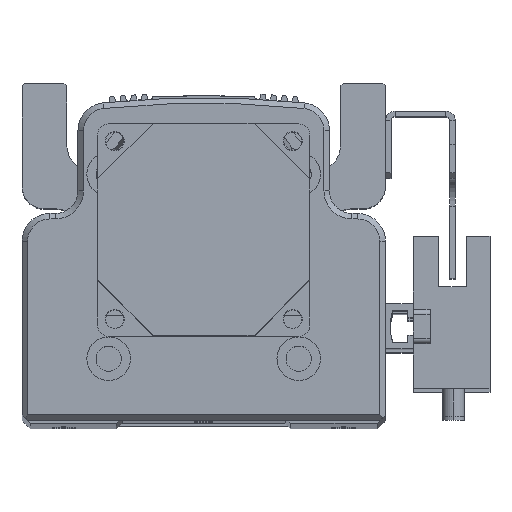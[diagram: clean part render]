
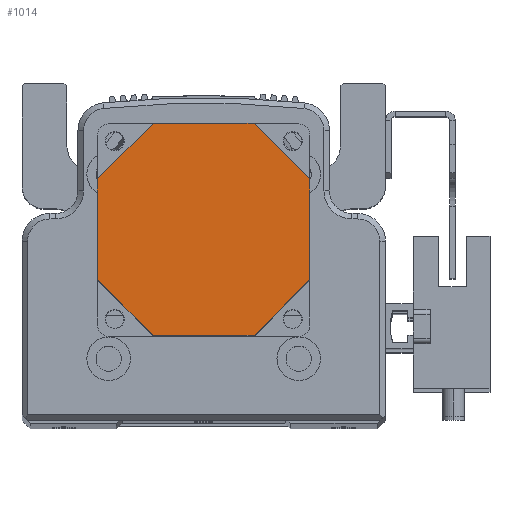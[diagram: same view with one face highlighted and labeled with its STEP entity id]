
A CAD part, top view. The second image highlights one B-rep face of the part: STEP entity #1014.
In plain terms, the highlighted planar face has unit normal (0, 0, 1) as drawn and (0, 0, -1) by its records, which use the part's own axes.
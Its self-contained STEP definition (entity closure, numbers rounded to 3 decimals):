
#106 = CARTESIAN_POINT ( 'NONE',  ( 19., -9., -84. ) ) ;
#121 = DIRECTION ( 'NONE',  ( -0.707, -0.707, 0. ) ) ;
#1014 = ADVANCED_FACE ( 'NONE', ( #17080 ), #10057, .F. ) ;
#5157 = EDGE_CURVE ( 'NONE', #10888, #10923, #18288, .T. ) ;
#5165 = EDGE_CURVE ( 'NONE', #10889, #10925, #18268, .T. ) ;
#5167 = EDGE_CURVE ( 'NONE', #10923, #10898, #18293, .T. ) ;
#5169 = EDGE_CURVE ( 'NONE', #10921, #10916, #18270, .T. ) ;
#5179 = EDGE_CURVE ( 'NONE', #10916, #10888, #18247, .T. ) ;
#5188 = EDGE_CURVE ( 'NONE', #10901, #10921, #18310, .T. ) ;
#5192 = EDGE_CURVE ( 'NONE', #10925, #10901, #18318, .T. ) ;
#5264 = EDGE_CURVE ( 'NONE', #10898, #10889, #18466, .T. ) ;
#9983 = DIRECTION ( 'NONE',  ( 0., 0., 1. ) ) ;
#9989 = DIRECTION ( 'NONE',  ( 1., 0., 0. ) ) ;
#10029 = CARTESIAN_POINT ( 'NONE',  ( 0., 0., -84. ) ) ;
#10057 = PLANE ( 'NONE',  #33113 ) ;
#10888 = VERTEX_POINT ( 'NONE', #30023 ) ;
#10889 = VERTEX_POINT ( 'NONE', #30074 ) ;
#10898 = VERTEX_POINT ( 'NONE', #30058 ) ;
#10901 = VERTEX_POINT ( 'NONE', #30087 ) ;
#10916 = VERTEX_POINT ( 'NONE', #30097 ) ;
#10921 = VERTEX_POINT ( 'NONE', #30112 ) ;
#10923 = VERTEX_POINT ( 'NONE', #30106 ) ;
#10925 = VERTEX_POINT ( 'NONE', #30066 ) ;
#15458 = ORIENTED_EDGE ( 'NONE', *, *, #5192, .T. ) ;
#15476 = ORIENTED_EDGE ( 'NONE', *, *, #5167, .T. ) ;
#15490 = ORIENTED_EDGE ( 'NONE', *, *, #5264, .T. ) ;
#15493 = ORIENTED_EDGE ( 'NONE', *, *, #5157, .T. ) ;
#15500 = ORIENTED_EDGE ( 'NONE', *, *, #5169, .T. ) ;
#15513 = ORIENTED_EDGE ( 'NONE', *, *, #5165, .T. ) ;
#15518 = ORIENTED_EDGE ( 'NONE', *, *, #5179, .T. ) ;
#15519 = ORIENTED_EDGE ( 'NONE', *, *, #5188, .T. ) ;
#16098 = CARTESIAN_POINT ( 'NONE',  ( -9., -19., -84. ) ) ;
#16340 = DIRECTION ( 'NONE',  ( -0.707, 0.707, 0. ) ) ;
#16490 = DIRECTION ( 'NONE',  ( 0.707, -0.707, 0. ) ) ;
#16502 = CARTESIAN_POINT ( 'NONE',  ( 19., 9., -84. ) ) ;
#16506 = CARTESIAN_POINT ( 'NONE',  ( -9., 19., -84. ) ) ;
#16510 = DIRECTION ( 'NONE',  ( 0., -1., 0. ) ) ;
#16515 = DIRECTION ( 'NONE',  ( -1., 0., 0. ) ) ;
#16516 = CARTESIAN_POINT ( 'NONE',  ( 19., 9., -84. ) ) ;
#16517 = CARTESIAN_POINT ( 'NONE',  ( 9., -19., -84. ) ) ;
#16519 = DIRECTION ( 'NONE',  ( 0.707, 0.707, 0. ) ) ;
#16522 = DIRECTION ( 'NONE',  ( 0., 1., 0. ) ) ;
#16550 = CARTESIAN_POINT ( 'NONE',  ( 9., 19., -84. ) ) ;
#16554 = DIRECTION ( 'NONE',  ( 1., 0., 0. ) ) ;
#16561 = CARTESIAN_POINT ( 'NONE',  ( -19., 9., -84. ) ) ;
#17080 = FACE_OUTER_BOUND ( 'NONE', #32516, .T. ) ;
#18230 = VECTOR ( 'NONE', #16510, 1000. ) ;
#18247 = LINE ( 'NONE', #16550, #18250 ) ;
#18250 = VECTOR ( 'NONE', #16554, 1000. ) ;
#18268 = LINE ( 'NONE', #16517, #18269 ) ;
#18269 = VECTOR ( 'NONE', #16515, 1000. ) ;
#18270 = LINE ( 'NONE', #16506, #18292 ) ;
#18278 = VECTOR ( 'NONE', #16490, 1000. ) ;
#18288 = LINE ( 'NONE', #16502, #18278 ) ;
#18292 = VECTOR ( 'NONE', #16519, 1000. ) ;
#18293 = LINE ( 'NONE', #16516, #18230 ) ;
#18297 = VECTOR ( 'NONE', #16522, 1000. ) ;
#18310 = LINE ( 'NONE', #16561, #18297 ) ;
#18318 = LINE ( 'NONE', #16098, #18323 ) ;
#18323 = VECTOR ( 'NONE', #16340, 1000. ) ;
#18465 = VECTOR ( 'NONE', #121, 1000. ) ;
#18466 = LINE ( 'NONE', #106, #18465 ) ;
#30023 = CARTESIAN_POINT ( 'NONE',  ( 9., 19., -84. ) ) ;
#30058 = CARTESIAN_POINT ( 'NONE',  ( 19., -9., -84. ) ) ;
#30066 = CARTESIAN_POINT ( 'NONE',  ( -9., -19., -84. ) ) ;
#30074 = CARTESIAN_POINT ( 'NONE',  ( 9., -19., -84. ) ) ;
#30087 = CARTESIAN_POINT ( 'NONE',  ( -19., -9., -84. ) ) ;
#30097 = CARTESIAN_POINT ( 'NONE',  ( -9., 19., -84. ) ) ;
#30106 = CARTESIAN_POINT ( 'NONE',  ( 19., 9., -84. ) ) ;
#30112 = CARTESIAN_POINT ( 'NONE',  ( -19., 9., -84. ) ) ;
#32516 = EDGE_LOOP ( 'NONE', ( #15458, #15519, #15500, #15518, #15493, #15476, #15490, #15513 ) ) ;
#33113 = AXIS2_PLACEMENT_3D ( 'NONE', #10029, #9983, #9989 ) ;
